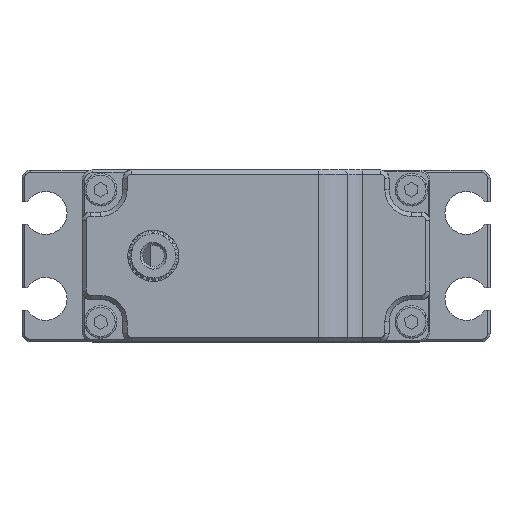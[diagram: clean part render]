
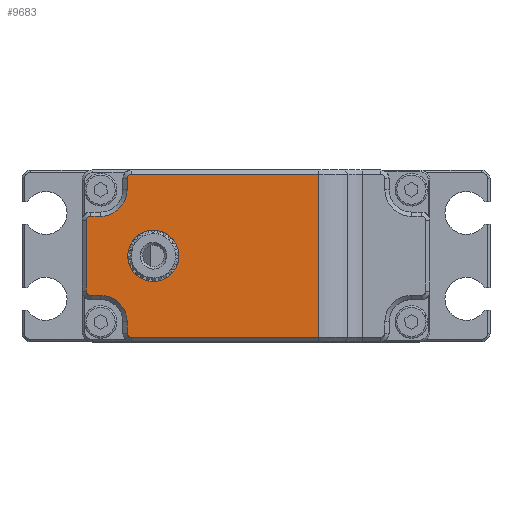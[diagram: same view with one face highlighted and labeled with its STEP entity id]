
A CAD part, top view. The second image highlights one B-rep face of the part: STEP entity #9683.
In plain terms, the highlighted planar face has unit normal (0, 0, 1).
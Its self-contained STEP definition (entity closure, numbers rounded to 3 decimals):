
#410 = CARTESIAN_POINT ( 'NONE',  ( -69.685, 2.411, 12.3 ) ) ;
#686 = DIRECTION ( 'NONE',  ( 1., 0., 0. ) ) ;
#714 = DIRECTION ( 'NONE',  ( 0., 1., 0. ) ) ;
#748 = AXIS2_PLACEMENT_3D ( 'NONE', #4000, #12501, #2616 ) ;
#933 = PLANE ( 'NONE',  #13488 ) ;
#1042 = CARTESIAN_POINT ( 'NONE',  ( -69.755, -5.289, 12.3 ) ) ;
#1179 = ORIENTED_EDGE ( 'NONE', *, *, #10786, .T. ) ;
#1374 = CARTESIAN_POINT ( 'NONE',  ( -72.855, -2.189, 12.3 ) ) ;
#1559 = CIRCLE ( 'NONE', #5270, 0.5 ) ;
#1635 = VERTEX_POINT ( 'NONE', #17762 ) ;
#1668 = CARTESIAN_POINT ( 'NONE',  ( -69.255, -7.089, 12.3 ) ) ;
#1800 = EDGE_CURVE ( 'NONE', #17132, #10003, #17348, .T. ) ;
#1909 = EDGE_CURVE ( 'NONE', #4932, #3095, #13208, .T. ) ;
#2208 = ORIENTED_EDGE ( 'NONE', *, *, #8107, .T. ) ;
#2285 = LINE ( 'NONE', #1374, #12786 ) ;
#2564 = CARTESIAN_POINT ( 'NONE',  ( -74.005, -1.689, 12.3 ) ) ;
#2616 = DIRECTION ( 'NONE',  ( 1., 0., 0. ) ) ;
#2643 = EDGE_CURVE ( 'NONE', #3095, #12895, #5791, .T. ) ;
#2688 = LINE ( 'NONE', #3664, #14681 ) ;
#2807 = CIRCLE ( 'NONE', #10096, 0.5 ) ;
#2933 = ORIENTED_EDGE ( 'NONE', *, *, #6752, .T. ) ;
#2994 = DIRECTION ( 'NONE',  ( 1., 0., 0. ) ) ;
#3095 = VERTEX_POINT ( 'NONE', #1668 ) ;
#3116 = DIRECTION ( 'NONE',  ( 1., 0., 0. ) ) ;
#3119 = EDGE_CURVE ( 'NONE', #6589, #18325, #8179, .T. ) ;
#3219 = DIRECTION ( 'NONE',  ( 0., 0., 1. ) ) ;
#3567 = VECTOR ( 'NONE', #12761, 1000. ) ;
#3664 = CARTESIAN_POINT ( 'NONE',  ( -74.505, -1.689, 12.3 ) ) ;
#4000 = CARTESIAN_POINT ( 'NONE',  ( -72.855, -5.289, 12.3 ) ) ;
#4052 = AXIS2_PLACEMENT_3D ( 'NONE', #4857, #10667, #7662 ) ;
#4139 = VERTEX_POINT ( 'NONE', #7004 ) ;
#4166 = ORIENTED_EDGE ( 'NONE', *, *, #9157, .T. ) ;
#4305 = CIRCLE ( 'NONE', #4052, 2.98 ) ;
#4674 = CARTESIAN_POINT ( 'NONE',  ( -74.505, 6.511, 12.3 ) ) ;
#4735 = VERTEX_POINT ( 'NONE', #17415 ) ;
#4806 = LINE ( 'NONE', #5640, #6809 ) ;
#4857 = CARTESIAN_POINT ( 'NONE',  ( -66.705, 2.411, 12.3 ) ) ;
#4932 = VERTEX_POINT ( 'NONE', #7945 ) ;
#5000 = CARTESIAN_POINT ( 'NONE',  ( -69.755, -5.289, 12.3 ) ) ;
#5057 = DIRECTION ( 'NONE',  ( 0., -1., 0. ) ) ;
#5270 = AXIS2_PLACEMENT_3D ( 'NONE', #2564, #15534, #11126 ) ;
#5271 = EDGE_CURVE ( 'NONE', #18325, #17132, #6923, .T. ) ;
#5315 = ORIENTED_EDGE ( 'NONE', *, *, #14603, .T. ) ;
#5562 = CARTESIAN_POINT ( 'NONE',  ( -72.855, 7.011, 12.3 ) ) ;
#5624 = CARTESIAN_POINT ( 'NONE',  ( -47.455, -7.089, 12.3 ) ) ;
#5640 = CARTESIAN_POINT ( 'NONE',  ( -69.755, -5.289, 12.3 ) ) ;
#5791 = LINE ( 'NONE', #5624, #12937 ) ;
#6034 = ORIENTED_EDGE ( 'NONE', *, *, #5271, .T. ) ;
#6092 = CARTESIAN_POINT ( 'NONE',  ( -69.255, 11.911, 12.3 ) ) ;
#6589 = VERTEX_POINT ( 'NONE', #12736 ) ;
#6706 = AXIS2_PLACEMENT_3D ( 'NONE', #8734, #14345, #3116 ) ;
#6752 = EDGE_CURVE ( 'NONE', #1635, #16408, #2807, .T. ) ;
#6809 = VECTOR ( 'NONE', #14132, 1000. ) ;
#6923 = LINE ( 'NONE', #5562, #3567 ) ;
#7004 = CARTESIAN_POINT ( 'NONE',  ( -74.005, -2.189, 12.3 ) ) ;
#7185 = DIRECTION ( 'NONE',  ( 1., 0., 0. ) ) ;
#7251 = EDGE_CURVE ( 'NONE', #4139, #7678, #2285, .T. ) ;
#7462 = CIRCLE ( 'NONE', #748, 3.1 ) ;
#7662 = DIRECTION ( 'NONE',  ( 1., 0., 0. ) ) ;
#7678 = VERTEX_POINT ( 'NONE', #12688 ) ;
#7945 = CARTESIAN_POINT ( 'NONE',  ( -69.755, -6.589, 12.3 ) ) ;
#8107 = EDGE_CURVE ( 'NONE', #10003, #14439, #2688, .T. ) ;
#8179 = CIRCLE ( 'NONE', #6706, 3.1 ) ;
#8287 = VERTEX_POINT ( 'NONE', #1042 ) ;
#8340 = CARTESIAN_POINT ( 'NONE',  ( -47.455, -7.089, 12.3 ) ) ;
#8698 = DIRECTION ( 'NONE',  ( 1., 0., 0. ) ) ;
#8734 = CARTESIAN_POINT ( 'NONE',  ( -72.855, 10.111, 12.3 ) ) ;
#8741 = CARTESIAN_POINT ( 'NONE',  ( -69.255, -6.589, 12.3 ) ) ;
#9006 = VERTEX_POINT ( 'NONE', #410 ) ;
#9157 = EDGE_CURVE ( 'NONE', #12895, #17931, #12212, .T. ) ;
#9260 = CARTESIAN_POINT ( 'NONE',  ( -47.455, 12.411, 12.3 ) ) ;
#9351 = VECTOR ( 'NONE', #17285, 1000. ) ;
#9478 = FACE_OUTER_BOUND ( 'NONE', #9536, .T. ) ;
#9536 = EDGE_LOOP ( 'NONE', ( #4166, #5315, #2933, #17950, #12018, #6034, #13955, #2208, #1179, #9626, #9770, #10347, #18212, #14559 ) ) ;
#9626 = ORIENTED_EDGE ( 'NONE', *, *, #7251, .T. ) ;
#9683 = ADVANCED_FACE ( 'NONE', ( #9478, #9697 ), #933, .T. ) ;
#9697 = FACE_BOUND ( 'NONE', #16465, .T. ) ;
#9770 = ORIENTED_EDGE ( 'NONE', *, *, #12452, .T. ) ;
#9921 = DIRECTION ( 'NONE',  ( 0., 0., 1. ) ) ;
#10003 = VERTEX_POINT ( 'NONE', #4674 ) ;
#10081 = CARTESIAN_POINT ( 'NONE',  ( -74.505, -1.689, 12.3 ) ) ;
#10096 = AXIS2_PLACEMENT_3D ( 'NONE', #14332, #3219, #15821 ) ;
#10347 = ORIENTED_EDGE ( 'NONE', *, *, #17184, .T. ) ;
#10619 = CARTESIAN_POINT ( 'NONE',  ( -66.705, 2.411, 12.3 ) ) ;
#10667 = DIRECTION ( 'NONE',  ( 0., 0., -1. ) ) ;
#10786 = EDGE_CURVE ( 'NONE', #14439, #4139, #1559, .T. ) ;
#10798 = DIRECTION ( 'NONE',  ( 0., -1., 0. ) ) ;
#10932 = DIRECTION ( 'NONE',  ( 0., 0., -1. ) ) ;
#11126 = DIRECTION ( 'NONE',  ( 1., 0., 0. ) ) ;
#11392 = AXIS2_PLACEMENT_3D ( 'NONE', #8741, #17255, #15170 ) ;
#11685 = CIRCLE ( 'NONE', #14483, 2.98 ) ;
#11979 = EDGE_CURVE ( 'NONE', #16408, #6589, #4806, .T. ) ;
#12018 = ORIENTED_EDGE ( 'NONE', *, *, #3119, .T. ) ;
#12212 = LINE ( 'NONE', #9260, #17003 ) ;
#12381 = DIRECTION ( 'NONE',  ( 0., 0., 1. ) ) ;
#12452 = EDGE_CURVE ( 'NONE', #7678, #8287, #7462, .T. ) ;
#12501 = DIRECTION ( 'NONE',  ( 0., 0., -1. ) ) ;
#12688 = CARTESIAN_POINT ( 'NONE',  ( -72.855, -2.189, 12.3 ) ) ;
#12727 = EDGE_CURVE ( 'NONE', #4735, #9006, #11685, .T. ) ;
#12736 = CARTESIAN_POINT ( 'NONE',  ( -69.755, 10.111, 12.3 ) ) ;
#12761 = DIRECTION ( 'NONE',  ( -1., 0., 0. ) ) ;
#12786 = VECTOR ( 'NONE', #8698, 1000. ) ;
#12895 = VERTEX_POINT ( 'NONE', #8340 ) ;
#12937 = VECTOR ( 'NONE', #7185, 1000. ) ;
#13208 = CIRCLE ( 'NONE', #11392, 0.5 ) ;
#13488 = AXIS2_PLACEMENT_3D ( 'NONE', #17886, #12381, #686 ) ;
#13955 = ORIENTED_EDGE ( 'NONE', *, *, #1800, .T. ) ;
#14049 = ORIENTED_EDGE ( 'NONE', *, *, #12727, .T. ) ;
#14108 = LINE ( 'NONE', #5000, #18302 ) ;
#14132 = DIRECTION ( 'NONE',  ( 0., -1., 0. ) ) ;
#14332 = CARTESIAN_POINT ( 'NONE',  ( -69.255, 11.411, 12.3 ) ) ;
#14345 = DIRECTION ( 'NONE',  ( 0., 0., -1. ) ) ;
#14439 = VERTEX_POINT ( 'NONE', #10081 ) ;
#14483 = AXIS2_PLACEMENT_3D ( 'NONE', #10619, #10932, #16642 ) ;
#14559 = ORIENTED_EDGE ( 'NONE', *, *, #2643, .T. ) ;
#14603 = EDGE_CURVE ( 'NONE', #17931, #1635, #17067, .T. ) ;
#14681 = VECTOR ( 'NONE', #10798, 1000. ) ;
#15135 = AXIS2_PLACEMENT_3D ( 'NONE', #15591, #9921, #2994 ) ;
#15170 = DIRECTION ( 'NONE',  ( 1., 0., 0. ) ) ;
#15534 = DIRECTION ( 'NONE',  ( 0., 0., 1. ) ) ;
#15591 = CARTESIAN_POINT ( 'NONE',  ( -74.005, 6.511, 12.3 ) ) ;
#15634 = CARTESIAN_POINT ( 'NONE',  ( -47.455, 11.911, 12.3 ) ) ;
#15821 = DIRECTION ( 'NONE',  ( 1., 0., 0. ) ) ;
#16235 = CARTESIAN_POINT ( 'NONE',  ( -74.005, 7.011, 12.3 ) ) ;
#16259 = CARTESIAN_POINT ( 'NONE',  ( -72.855, 7.011, 12.3 ) ) ;
#16408 = VERTEX_POINT ( 'NONE', #16753 ) ;
#16465 = EDGE_LOOP ( 'NONE', ( #14049, #17017 ) ) ;
#16642 = DIRECTION ( 'NONE',  ( 1., 0., 0. ) ) ;
#16753 = CARTESIAN_POINT ( 'NONE',  ( -69.755, 11.411, 12.3 ) ) ;
#17003 = VECTOR ( 'NONE', #714, 1000. ) ;
#17017 = ORIENTED_EDGE ( 'NONE', *, *, #17713, .T. ) ;
#17067 = LINE ( 'NONE', #6092, #9351 ) ;
#17132 = VERTEX_POINT ( 'NONE', #16235 ) ;
#17184 = EDGE_CURVE ( 'NONE', #8287, #4932, #14108, .T. ) ;
#17255 = DIRECTION ( 'NONE',  ( 0., 0., 1. ) ) ;
#17285 = DIRECTION ( 'NONE',  ( -1., 0., 0. ) ) ;
#17348 = CIRCLE ( 'NONE', #15135, 0.5 ) ;
#17415 = CARTESIAN_POINT ( 'NONE',  ( -63.725, 2.411, 12.3 ) ) ;
#17713 = EDGE_CURVE ( 'NONE', #9006, #4735, #4305, .T. ) ;
#17762 = CARTESIAN_POINT ( 'NONE',  ( -69.255, 11.911, 12.3 ) ) ;
#17886 = CARTESIAN_POINT ( 'NONE',  ( -72.855, -5.289, 12.3 ) ) ;
#17931 = VERTEX_POINT ( 'NONE', #15634 ) ;
#17950 = ORIENTED_EDGE ( 'NONE', *, *, #11979, .T. ) ;
#18212 = ORIENTED_EDGE ( 'NONE', *, *, #1909, .T. ) ;
#18302 = VECTOR ( 'NONE', #5057, 1000. ) ;
#18325 = VERTEX_POINT ( 'NONE', #16259 ) ;
